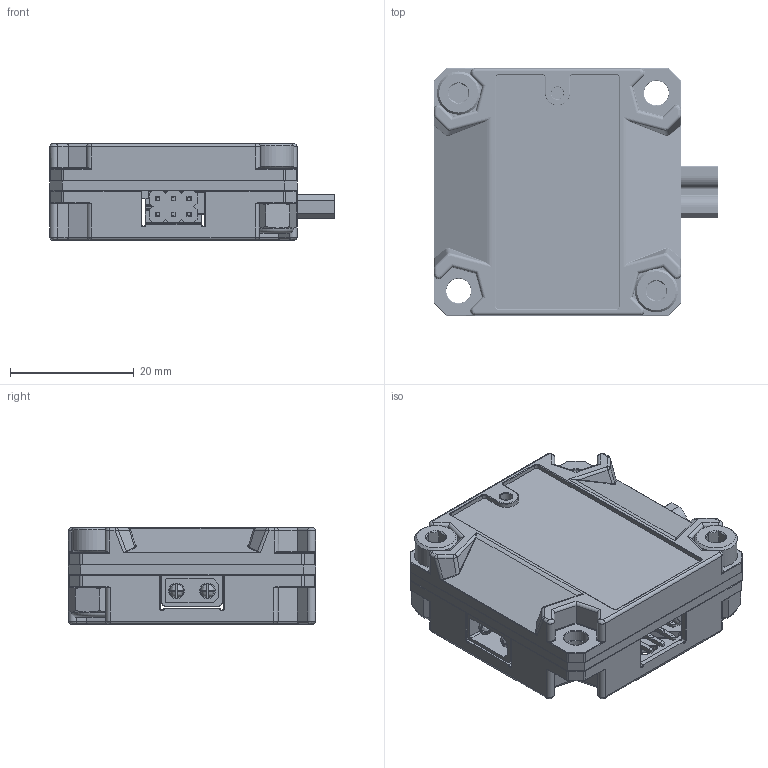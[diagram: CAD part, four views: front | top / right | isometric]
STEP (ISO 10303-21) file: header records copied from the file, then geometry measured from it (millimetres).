
FILE_DESCRIPTION(/* description */ (''),/* implementation_level */ '2;1');
FILE_NAME(/* name */ 'R:/Shared/Solidworks Files/(2) goBILDA/31 Electronics/3119 BECs/In Warehouse/STEP Files/3A BEC Assembly v13.step',/* time_stamp */ '2022-08-09T15:04:21-05:00',/* author */ (''),/* organization */ (''),/* preprocessor_version */ 'ST-DEVELOPER v19',/* originating_system */ 'Autodesk Translation Framework v11.7.0.108',/* authorisation */ '');
FILE_SCHEMA (('AUTOMOTIVE_DESIGN { 1 0 10303 214 3 1 1 }'));
Products named in the file (43): (Unsaved); 3119-2829-0004; Board; Packages; 0603LED; 0603C; 0603 CAP v1; 0603R; User Library-R0603 v1; 0805C; User Library-Chip Cap_MLCC_0805 (2012)_D v1; C+5MMÃTH-RA-B; User Library-Cap-EL(5x11-2)T Right Angle v2; L10X11; User Library-SMPI1004HW (1) v1; SMAF; SMFA v1; SOD-323; User Library-SOD323-1 v1; 2X03*90; 2x3x2.54mm Pin Head Right Angle v4; XT-30PWF; (29) XT30 90° Board Mount Connector (MH-FC) v6; (29) XT30PW-F; FC; MH; FPin; XT-30PWM; (28) XT30 90° Board Mount Connector (FH-MC) v5; (28) XT30PW-M; MC; FH; MPin; SOIC8; Model; DFN3X3; User Library-DFN_3x3_8L_EP2_P v1; lead frame; body; 3117-0032-0012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
Assembly tree (61 placements, depth 7):
  (Unsaved)
    3119-2829-0004
      Board
      Packages
        0603LED
        0603C  x2
          0603 CAP v1
        0603R  x8
          User Library-R0603 v1
        0805C  x5
          User Library-Chip Cap_MLCC_0805 (2012)_D v1
        C+5MMÃTH-RA-B
          User Library-Cap-EL(5x11-2)T Right Angle v2
        L10X11
          User Library-SMPI1004HW (1) v1
        SMAF
          SMFA v1
        SOD-323  x2
          User Library-SOD323-1 v1
        2X03*90
          2x3x2.54mm Pin Head Right Angle v4
        XT-30PWF
          (29) XT30 90° Board Mount Connector (MH-FC) v6
            (29) XT30PW-F
              FC  x2
              MH
              FPin  x2
        XT-30PWM
          (28) XT30 90° Board Mount Connector (FH-MC) v5
            (28) XT30PW-M
              MC  x2
              FH
              MPin  x2
        SOIC8
          Model
        DFN3X3
          User Library-DFN_3x3_8L_EP2_P v1
            lead frame
            body
    3117-0032-0012
    2800-0004-0010  x2
    2812-0004-0007  x2
    3117-0032-0003
Bounding box: 46 x 40.01 x 15.6 mm (x, y, z)
Volume: 11293.4 mm3; surface area: 18397.9 mm2
Topology: 83 solids, 84 shells, 4882 faces, 12365 edges, 7793 vertices
Faces by surface type: plane 2433, cylinder 1300, bspline 637, torus 364, cone 80, sphere 68
Full cylindrical faces by diameter (mm): 0.2 x101, 0.35 x32, 0.4 x1, 0.5 x4, 0.7 x2, 0.9 x8, 0.95 x6, 1 x4, 1.5 x4, 1.7 x4, 1.75 x4, 1.8 x4, 2 x3, 2.5 x8, 3.091 x26, 3.3 x8, 3.359 x2, 3.4 x2, 4 x48, 4.371 x2, 5 x1, 7 x2
Entity records: 148961 total; most frequent: CARTESIAN_POINT 48748, ORIENTED_EDGE 20894, DIRECTION 19353, EDGE_CURVE 10447, VERTEX_POINT 6645, AXIS2_PLACEMENT_3D 6559, LINE 6235, VECTOR 6235
